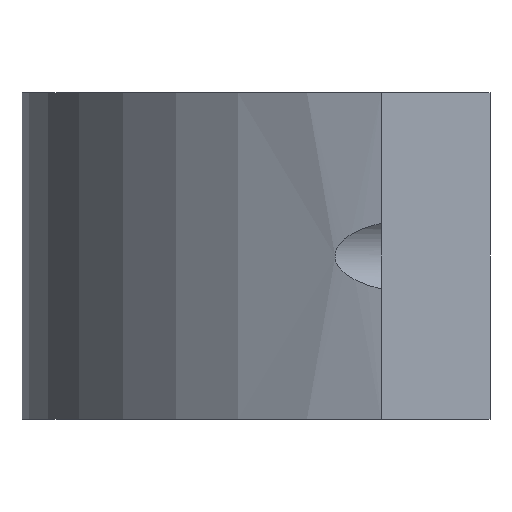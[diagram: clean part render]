
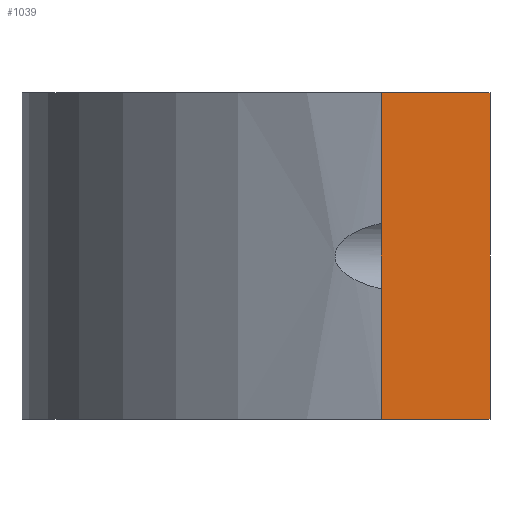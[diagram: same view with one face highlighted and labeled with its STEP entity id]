
A CAD part, front view. The second image highlights one B-rep face of the part: STEP entity #1039.
In plain terms, the highlighted planar face has unit normal (0, -1, 0).
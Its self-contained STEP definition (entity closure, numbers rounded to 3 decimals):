
#50 = PLANE('',#51);
#51 = AXIS2_PLACEMENT_3D('',#52,#53,#54);
#52 = CARTESIAN_POINT('',(28.,-90.432,25.5));
#53 = DIRECTION('',(1.,0.,0.));
#54 = DIRECTION('',(0.,0.,-1.));
#132 = VERTEX_POINT('',#133);
#133 = CARTESIAN_POINT('',(28.,-112.232,29.6));
#147 = PLANE('',#148);
#148 = AXIS2_PLACEMENT_3D('',#149,#150,#151);
#149 = CARTESIAN_POINT('',(16.,-112.232,29.6));
#150 = DIRECTION('',(0.,0.,1.));
#151 = DIRECTION('',(1.,0.,-0.));
#159 = EDGE_CURVE('',#160,#132,#162,.T.);
#160 = VERTEX_POINT('',#161);
#161 = CARTESIAN_POINT('',(28.,-112.232,25.6));
#162 = SURFACE_CURVE('',#163,(#167,#174),.PCURVE_S1.);
#163 = LINE('',#164,#165);
#164 = CARTESIAN_POINT('',(28.,-112.232,25.6));
#165 = VECTOR('',#166,1.);
#166 = DIRECTION('',(0.,0.,1.));
#167 = PCURVE('',#50,#168);
#168 = DEFINITIONAL_REPRESENTATION('',(#169),#173);
#169 = LINE('',#170,#171);
#170 = CARTESIAN_POINT('',(-0.1,-21.8));
#171 = VECTOR('',#172,1.);
#172 = DIRECTION('',(-1.,0.));
#173 = ( GEOMETRIC_REPRESENTATION_CONTEXT(2) 
PARAMETRIC_REPRESENTATION_CONTEXT() REPRESENTATION_CONTEXT('2D SPACE',''
  ) );
#174 = PCURVE('',#175,#180);
#175 = PLANE('',#176);
#176 = AXIS2_PLACEMENT_3D('',#177,#178,#179);
#177 = CARTESIAN_POINT('',(16.,-112.232,25.6));
#178 = DIRECTION('',(0.,1.,0.));
#179 = DIRECTION('',(0.,-0.,1.));
#180 = DEFINITIONAL_REPRESENTATION('',(#181),#185);
#181 = LINE('',#182,#183);
#182 = CARTESIAN_POINT('',(0.,12.));
#183 = VECTOR('',#184,1.);
#184 = DIRECTION('',(1.,0.));
#185 = ( GEOMETRIC_REPRESENTATION_CONTEXT(2) 
PARAMETRIC_REPRESENTATION_CONTEXT() REPRESENTATION_CONTEXT('2D SPACE',''
  ) );
#203 = PLANE('',#204);
#204 = AXIS2_PLACEMENT_3D('',#205,#206,#207);
#205 = CARTESIAN_POINT('',(2.,-115.432,25.6));
#206 = DIRECTION('',(0.,0.,1.));
#207 = DIRECTION('',(1.,0.,-0.));
#312 = PLANE('',#313);
#313 = AXIS2_PLACEMENT_3D('',#314,#315,#316);
#314 = CARTESIAN_POINT('',(16.,-90.432,25.5));
#315 = DIRECTION('',(1.,0.,0.));
#316 = DIRECTION('',(0.,0.,-1.));
#948 = VERTEX_POINT('',#949);
#949 = CARTESIAN_POINT('',(16.,-112.232,29.6));
#970 = EDGE_CURVE('',#948,#132,#971,.T.);
#971 = SURFACE_CURVE('',#972,(#976,#983),.PCURVE_S1.);
#972 = LINE('',#973,#974);
#973 = CARTESIAN_POINT('',(16.,-112.232,29.6));
#974 = VECTOR('',#975,1.);
#975 = DIRECTION('',(1.,0.,0.));
#976 = PCURVE('',#147,#977);
#977 = DEFINITIONAL_REPRESENTATION('',(#978),#982);
#978 = LINE('',#979,#980);
#979 = CARTESIAN_POINT('',(0.,0.));
#980 = VECTOR('',#981,1.);
#981 = DIRECTION('',(1.,0.));
#982 = ( GEOMETRIC_REPRESENTATION_CONTEXT(2) 
PARAMETRIC_REPRESENTATION_CONTEXT() REPRESENTATION_CONTEXT('2D SPACE',''
  ) );
#983 = PCURVE('',#175,#984);
#984 = DEFINITIONAL_REPRESENTATION('',(#985),#989);
#985 = LINE('',#986,#987);
#986 = CARTESIAN_POINT('',(4.,0.));
#987 = VECTOR('',#988,1.);
#988 = DIRECTION('',(0.,1.));
#989 = ( GEOMETRIC_REPRESENTATION_CONTEXT(2) 
PARAMETRIC_REPRESENTATION_CONTEXT() REPRESENTATION_CONTEXT('2D SPACE',''
  ) );
#1039 = ADVANCED_FACE('',(#1040),#175,.F.);
#1040 = FACE_BOUND('',#1041,.F.);
#1041 = EDGE_LOOP('',(#1042,#1065,#1086,#1087));
#1042 = ORIENTED_EDGE('',*,*,#1043,.F.);
#1043 = EDGE_CURVE('',#1044,#160,#1046,.T.);
#1044 = VERTEX_POINT('',#1045);
#1045 = CARTESIAN_POINT('',(16.,-112.232,25.6));
#1046 = SURFACE_CURVE('',#1047,(#1051,#1058),.PCURVE_S1.);
#1047 = LINE('',#1048,#1049);
#1048 = CARTESIAN_POINT('',(16.,-112.232,25.6));
#1049 = VECTOR('',#1050,1.);
#1050 = DIRECTION('',(1.,0.,0.));
#1051 = PCURVE('',#175,#1052);
#1052 = DEFINITIONAL_REPRESENTATION('',(#1053),#1057);
#1053 = LINE('',#1054,#1055);
#1054 = CARTESIAN_POINT('',(0.,0.));
#1055 = VECTOR('',#1056,1.);
#1056 = DIRECTION('',(0.,1.));
#1057 = ( GEOMETRIC_REPRESENTATION_CONTEXT(2) 
PARAMETRIC_REPRESENTATION_CONTEXT() REPRESENTATION_CONTEXT('2D SPACE',''
  ) );
#1058 = PCURVE('',#203,#1059);
#1059 = DEFINITIONAL_REPRESENTATION('',(#1060),#1064);
#1060 = LINE('',#1061,#1062);
#1061 = CARTESIAN_POINT('',(14.,3.2));
#1062 = VECTOR('',#1063,1.);
#1063 = DIRECTION('',(1.,0.));
#1064 = ( GEOMETRIC_REPRESENTATION_CONTEXT(2) 
PARAMETRIC_REPRESENTATION_CONTEXT() REPRESENTATION_CONTEXT('2D SPACE',''
  ) );
#1065 = ORIENTED_EDGE('',*,*,#1066,.T.);
#1066 = EDGE_CURVE('',#1044,#948,#1067,.T.);
#1067 = SURFACE_CURVE('',#1068,(#1072,#1079),.PCURVE_S1.);
#1068 = LINE('',#1069,#1070);
#1069 = CARTESIAN_POINT('',(16.,-112.232,25.6));
#1070 = VECTOR('',#1071,1.);
#1071 = DIRECTION('',(0.,0.,1.));
#1072 = PCURVE('',#175,#1073);
#1073 = DEFINITIONAL_REPRESENTATION('',(#1074),#1078);
#1074 = LINE('',#1075,#1076);
#1075 = CARTESIAN_POINT('',(0.,0.));
#1076 = VECTOR('',#1077,1.);
#1077 = DIRECTION('',(1.,0.));
#1078 = ( GEOMETRIC_REPRESENTATION_CONTEXT(2) 
PARAMETRIC_REPRESENTATION_CONTEXT() REPRESENTATION_CONTEXT('2D SPACE',''
  ) );
#1079 = PCURVE('',#312,#1080);
#1080 = DEFINITIONAL_REPRESENTATION('',(#1081),#1085);
#1081 = LINE('',#1082,#1083);
#1082 = CARTESIAN_POINT('',(-0.1,-21.8));
#1083 = VECTOR('',#1084,1.);
#1084 = DIRECTION('',(-1.,0.));
#1085 = ( GEOMETRIC_REPRESENTATION_CONTEXT(2) 
PARAMETRIC_REPRESENTATION_CONTEXT() REPRESENTATION_CONTEXT('2D SPACE',''
  ) );
#1086 = ORIENTED_EDGE('',*,*,#970,.T.);
#1087 = ORIENTED_EDGE('',*,*,#159,.F.);
